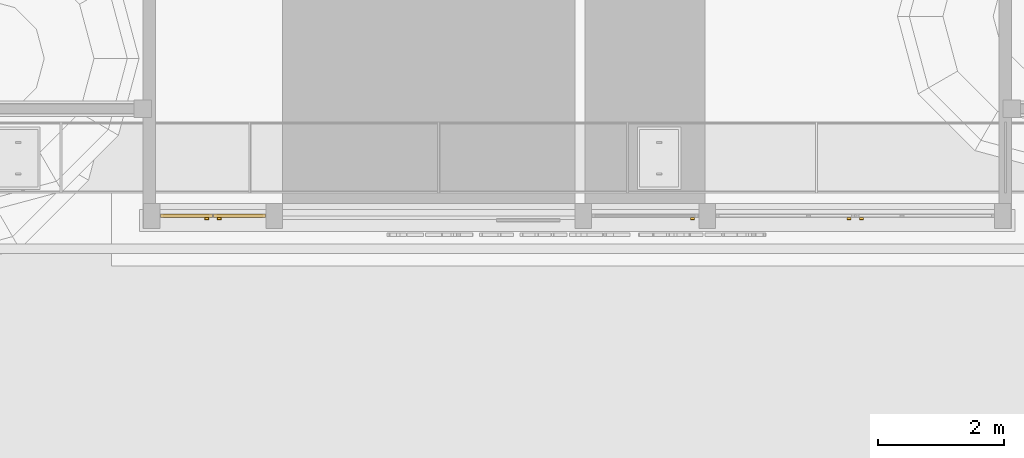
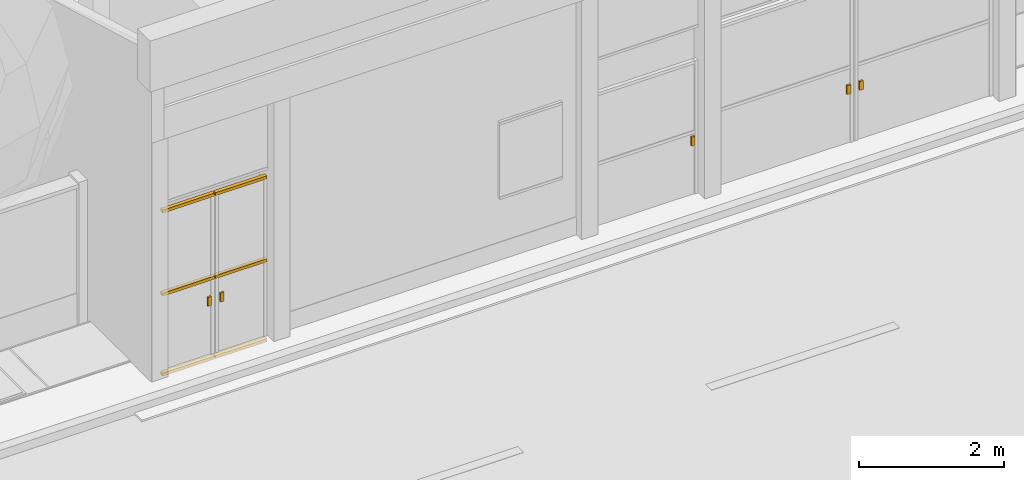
# One storey, part 75 of 177: 11 doors.
"""IFC4 building model written with IfcOpenShell, lengths in metres."""

from ifc_helpers import new_model, si_unit, origin, origin_with_axes, place, context, subcontext, project, spatial, triangles, element, save


model = new_model("IFC4")

# Units and contexts
model_context = context("Model", 3, precision=1e-05, world=origin_with_axes())
body_context = subcontext(model_context, "Body", "Model", "MODEL_VIEW")
ifc_project = project(units=[si_unit("LENGTHUNIT", "METRE"), si_unit("AREAUNIT", "SQUARE_METRE"), si_unit("VOLUMEUNIT", "CUBIC_METRE"), si_unit("PLANEANGLEUNIT", "RADIAN")], contexts=[model_context])

# Site, building, storey
site_placement = place(None, origin_with_axes())
site = spatial("IfcSite", under=ifc_project, at=site_placement, Name="Predio Los Mangos - Morales, San Martín", CompositionType="ELEMENT")
building_placement = place(site_placement, origin())
building = spatial("IfcBuilding", under=site, at=building_placement, Name="Hogar de Refugio Temporal", CompositionType="ELEMENT")
storey_placement = place(building_placement, origin())
storey = spatial("IfcBuildingStorey", under=building, at=storey_placement, Name="NIVEL 1 (NPT +0.00)", CompositionType="ELEMENT", Elevation=0.0)

# Doors
door_1_placement = place(storey_placement, origin())
element("IfcDoor", 1, at=door_1_placement, inside=storey, Name="oe01_porton_peatonal_m", ObjectType="Puerta / portón", PredefinedType="DOOR", context=body_context, shape_type="Tessellation", body=[
    triangles([(31.581, 16.27, 0.05), (32.404, 16.27, 0.05), (32.404, 16.33, 0.05), (31.581, 16.33, 0.05), (31.581, 16.27, 0.1), (32.404, 16.27, 0.1), (32.404, 16.33, 0.1), (31.581, 16.33, 0.1)], [[1, 4, 3], [1, 3, 2], [5, 6, 7], [5, 7, 8], [1, 2, 6], [1, 6, 5], [2, 3, 7], [2, 7, 6], [3, 4, 8], [3, 8, 7], [4, 1, 5], [4, 5, 8]]),
])
door_2_placement = place(storey_placement, origin())
element("IfcDoor", 2, at=door_2_placement, inside=storey, Name="oe01_porton_peatonal_m", ObjectType="Puerta / portón", PredefinedType="DOOR", context=body_context, shape_type="Tessellation", body=[
    triangles([(31.581, 16.27, 2.8), (32.404, 16.27, 2.8), (32.404, 16.33, 2.8), (31.581, 16.33, 2.8), (31.581, 16.27, 2.85), (32.404, 16.27, 2.85), (32.404, 16.33, 2.85), (31.581, 16.33, 2.85)], [[1, 4, 3], [1, 3, 2], [5, 6, 7], [5, 7, 8], [1, 2, 6], [1, 6, 5], [2, 3, 7], [2, 7, 6], [3, 4, 8], [3, 8, 7], [4, 1, 5], [4, 5, 8]]),
])
door_3_placement = place(storey_placement, origin())
element("IfcDoor", 3, at=door_3_placement, inside=storey, Name="oe01_porton_peatonal_m", ObjectType="Puerta / portón", PredefinedType="DOOR", context=body_context, shape_type="Tessellation", body=[
    triangles([(31.581, 16.27, 1.4), (32.404, 16.27, 1.4), (32.404, 16.33, 1.4), (31.581, 16.33, 1.4), (31.581, 16.27, 1.45), (32.404, 16.27, 1.45), (32.404, 16.33, 1.45), (31.581, 16.33, 1.45)], [[1, 4, 3], [1, 3, 2], [5, 6, 7], [5, 7, 8], [1, 2, 6], [1, 6, 5], [2, 3, 7], [2, 7, 6], [3, 4, 8], [3, 8, 7], [4, 1, 5], [4, 5, 8]]),
])
door_4_placement = place(storey_placement, origin())
element("IfcDoor", 4, at=door_4_placement, inside=storey, Name="oe01_porton_peatonal_manija", ObjectType="Puerta / portón", PredefinedType="DOOR", context=body_context, shape_type="Tessellation", body=[
    triangles([(32.284, 16.24, 1.0), (32.344, 16.24, 1.0), (32.344, 16.27, 1.0), (32.284, 16.27, 1.0), (32.284, 16.24, 1.15), (32.344, 16.24, 1.15), (32.344, 16.27, 1.15), (32.284, 16.27, 1.15)], [[1, 4, 3], [1, 3, 2], [5, 6, 7], [5, 7, 8], [1, 2, 6], [1, 6, 5], [2, 3, 7], [2, 7, 6], [3, 4, 8], [3, 8, 7], [4, 1, 5], [4, 5, 8]]),
])
door_5_placement = place(storey_placement, origin())
element("IfcDoor", 5, at=door_5_placement, inside=storey, Name="oe01_porton_peatonal_m", ObjectType="Puerta / portón", PredefinedType="DOOR", context=body_context, shape_type="Tessellation", body=[
    triangles([(32.424, 16.27, 0.05), (33.2471, 16.27, 0.05), (33.2471, 16.33, 0.05), (32.424, 16.33, 0.05), (32.424, 16.27, 0.1), (33.2471, 16.27, 0.1), (33.2471, 16.33, 0.1), (32.424, 16.33, 0.1)], [[1, 4, 3], [1, 3, 2], [5, 6, 7], [5, 7, 8], [1, 2, 6], [1, 6, 5], [2, 3, 7], [2, 7, 6], [3, 4, 8], [3, 8, 7], [4, 1, 5], [4, 5, 8]]),
])
door_6_placement = place(storey_placement, origin())
element("IfcDoor", 6, at=door_6_placement, inside=storey, Name="oe01_porton_peatonal_m", ObjectType="Puerta / portón", PredefinedType="DOOR", context=body_context, shape_type="Tessellation", body=[
    triangles([(32.424, 16.27, 2.8), (33.2471, 16.27, 2.8), (33.2471, 16.33, 2.8), (32.424, 16.33, 2.8), (32.424, 16.27, 2.85), (33.2471, 16.27, 2.85), (33.2471, 16.33, 2.85), (32.424, 16.33, 2.85)], [[1, 4, 3], [1, 3, 2], [5, 6, 7], [5, 7, 8], [1, 2, 6], [1, 6, 5], [2, 3, 7], [2, 7, 6], [3, 4, 8], [3, 8, 7], [4, 1, 5], [4, 5, 8]]),
])
door_7_placement = place(storey_placement, origin())
element("IfcDoor", 7, at=door_7_placement, inside=storey, Name="oe01_porton_peatonal_m", ObjectType="Puerta / portón", PredefinedType="DOOR", context=body_context, shape_type="Tessellation", body=[
    triangles([(32.424, 16.27, 1.4), (33.2471, 16.27, 1.4), (33.2471, 16.33, 1.4), (32.424, 16.33, 1.4), (32.424, 16.27, 1.45), (33.2471, 16.27, 1.45), (33.2471, 16.33, 1.45), (32.424, 16.33, 1.45)], [[1, 4, 3], [1, 3, 2], [5, 6, 7], [5, 7, 8], [1, 2, 6], [1, 6, 5], [2, 3, 7], [2, 7, 6], [3, 4, 8], [3, 8, 7], [4, 1, 5], [4, 5, 8]]),
])
door_8_placement = place(storey_placement, origin())
element("IfcDoor", 8, at=door_8_placement, inside=storey, Name="oe01_porton_peatonal_manija", ObjectType="Puerta / portón", PredefinedType="DOOR", context=body_context, shape_type="Tessellation", body=[
    triangles([(32.484, 16.24, 1.0), (32.544, 16.24, 1.0), (32.544, 16.27, 1.0), (32.484, 16.27, 1.0), (32.484, 16.24, 1.15), (32.544, 16.24, 1.15), (32.544, 16.27, 1.15), (32.484, 16.27, 1.15)], [[1, 4, 3], [1, 3, 2], [5, 6, 7], [5, 7, 8], [1, 2, 6], [1, 6, 5], [2, 3, 7], [2, 7, 6], [3, 4, 8], [3, 8, 7], [4, 1, 5], [4, 5, 8]]),
])
door_9_placement = place(storey_placement, origin())
element("IfcDoor", 9, at=door_9_placement, inside=storey, Name="oe01_puerta_manija", ObjectType="Puerta / portón", PredefinedType="DOOR", context=body_context, shape_type="Tessellation", body=[
    triangles([(40.002, 16.24, 1.0), (40.062, 16.24, 1.0), (40.062, 16.27, 1.0), (40.002, 16.27, 1.0), (40.002, 16.24, 1.15), (40.062, 16.24, 1.15), (40.062, 16.27, 1.15), (40.002, 16.27, 1.15)], [[1, 4, 3], [1, 3, 2], [5, 6, 7], [5, 7, 8], [1, 2, 6], [1, 6, 5], [2, 3, 7], [2, 7, 6], [3, 4, 8], [3, 8, 7], [4, 1, 5], [4, 5, 8]]),
])
door_10_placement = place(storey_placement, origin())
element("IfcDoor", 10, at=door_10_placement, inside=storey, Name="oe01_porton_vehicular_manija", ObjectType="Puerta / portón", PredefinedType="DOOR", context=body_context, shape_type="Tessellation", body=[
    triangles([(42.486, 16.24, 1.0), (42.546, 16.24, 1.0), (42.546, 16.27, 1.0), (42.486, 16.27, 1.0), (42.486, 16.24, 1.15), (42.546, 16.24, 1.15), (42.546, 16.27, 1.15), (42.486, 16.27, 1.15)], [[1, 4, 3], [1, 3, 2], [5, 6, 7], [5, 7, 8], [1, 2, 6], [1, 6, 5], [2, 3, 7], [2, 7, 6], [3, 4, 8], [3, 8, 7], [4, 1, 5], [4, 5, 8]]),
])
door_11_placement = place(storey_placement, origin())
element("IfcDoor", 11, at=door_11_placement, inside=storey, Name="oe01_porton_vehicular_manija", ObjectType="Puerta / portón", PredefinedType="DOOR", context=body_context, shape_type="Tessellation", body=[
    triangles([(42.686, 16.24, 1.0), (42.746, 16.24, 1.0), (42.746, 16.27, 1.0), (42.686, 16.27, 1.0), (42.686, 16.24, 1.15), (42.746, 16.24, 1.15), (42.746, 16.27, 1.15), (42.686, 16.27, 1.15)], [[1, 4, 3], [1, 3, 2], [5, 6, 7], [5, 7, 8], [1, 2, 6], [1, 6, 5], [2, 3, 7], [2, 7, 6], [3, 4, 8], [3, 8, 7], [4, 1, 5], [4, 5, 8]]),
])

save(model, "model.ifc")
